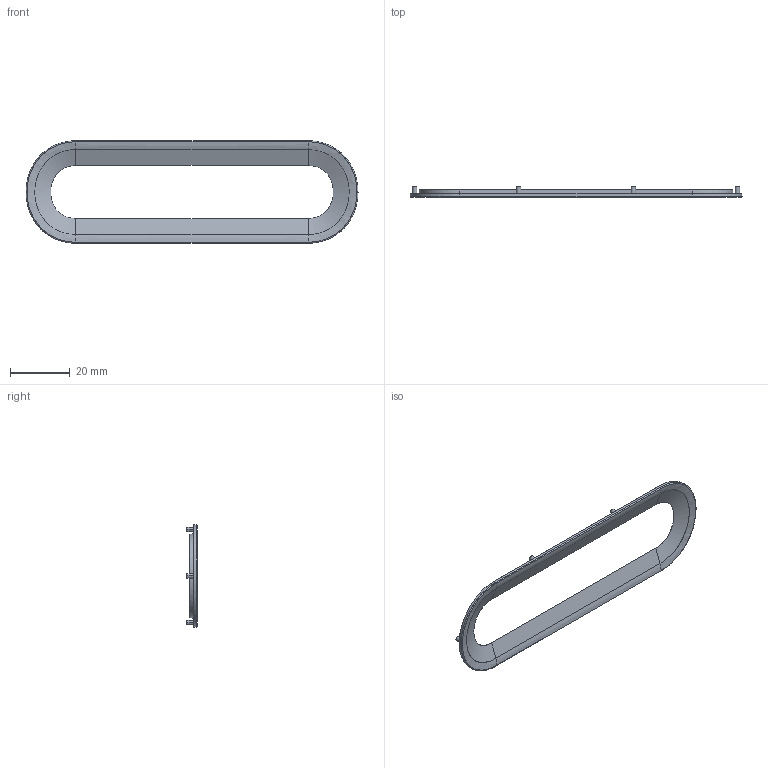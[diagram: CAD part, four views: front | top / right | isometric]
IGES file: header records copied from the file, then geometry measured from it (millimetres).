
Start section: Speaker 2 inch..SLDPRT - PrototypeComponentType Speaker 2 inch..SLDPRT - PrototypeComponentType Speaker 2 inch..SLDPRT - PrototypeComponentType Speaker 2 inch..SLDPRT - PrototypeComponentType 10 rocker-switch-KCD1..SLDPRT - PrototypeComponentType 10 rocker-switch-KCD1..SLDPRT - PrototypeComponentType 10 rocker-switch-KCD1..SLDPRT - PrototypeComponentType 10 rocker-switch-KCD1..SLDPRT - PrototypeCo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
Global section: file name: C:\Users\Victor\Desktop\AroFront.igs; native system: Rhinoceros ( Feb 27 2019 ); preprocessor: Trout Lake IGES 012 Feb 27 2019; date: 241028.191540; units: millimetre
Bounding box: 111.06 x 3.48 x 34.26 mm (x, y, z)
Surface area: 4619.4 mm2 (no closed solid volume)
Topology: 0 solids, 0 shells, 40 faces, 320 edges, 320 vertices
Faces by surface type: bspline 40
